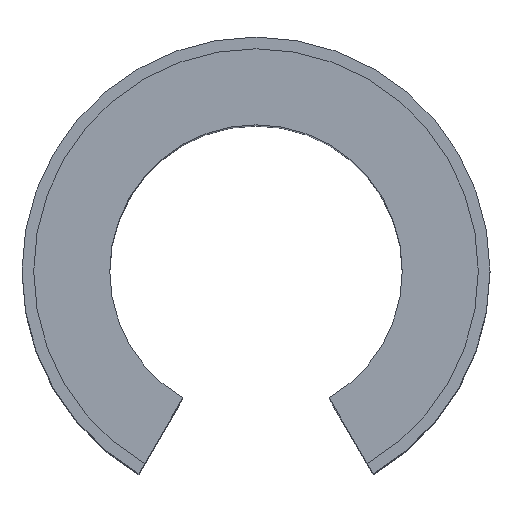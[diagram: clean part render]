
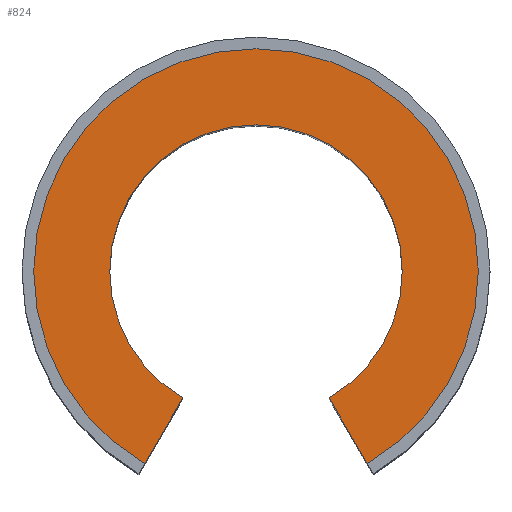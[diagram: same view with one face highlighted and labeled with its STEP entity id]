
A CAD part, top view. The second image highlights one B-rep face of the part: STEP entity #824.
In plain terms, the highlighted planar face has unit normal (0, 0, 1).
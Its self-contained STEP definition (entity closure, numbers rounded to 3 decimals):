
#51=CARTESIAN_POINT('',(12.5,0.,59.0));
#52=VERTEX_POINT('',#51);
#68=CARTESIAN_POINT('',(6.25,-10.825,59.0));
#69=VERTEX_POINT('',#68);
#76=CARTESIAN_POINT('',(0.0,0.0,59.0));
#77=DIRECTION('',(0.0,0.0,-1.0));
#78=DIRECTION('',(-1.0,0.0,0.0));
#79=AXIS2_PLACEMENT_3D('',#76,#77,#78);
#80=CIRCLE('',#79,12.5);
#81=EDGE_CURVE('',#52,#69,#80,.T.);
#91=CARTESIAN_POINT('',(-12.5,0.,59.0));
#92=VERTEX_POINT('',#91);
#101=CARTESIAN_POINT('',(-6.25,-10.825,59.0));
#102=VERTEX_POINT('',#101);
#103=CARTESIAN_POINT('',(0.0,0.0,59.0));
#104=DIRECTION('',(0.0,0.0,-1.0));
#105=DIRECTION('',(-1.0,0.0,0.0));
#106=AXIS2_PLACEMENT_3D('',#103,#104,#105);
#107=CIRCLE('',#106,12.5);
#108=EDGE_CURVE('',#102,#92,#107,.T.);
#469=CARTESIAN_POINT('',(-9.5,-16.454,59.0));
#470=VERTEX_POINT('',#469);
#539=CARTESIAN_POINT('',(-9.5,-16.454,59.0));
#540=DIRECTION('',(0.5,0.866,0.0));
#541=VECTOR('',#540,6.5);
#542=LINE('',#539,#541);
#543=EDGE_CURVE('',#470,#102,#542,.T.);
#553=CARTESIAN_POINT('',(9.5,-16.454,59.0));
#554=VERTEX_POINT('',#553);
#561=CARTESIAN_POINT('',(6.25,-10.825,59.0));
#562=DIRECTION('',(0.5,-0.866,0.0));
#563=VECTOR('',#562,6.5);
#564=LINE('',#561,#563);
#565=EDGE_CURVE('',#69,#554,#564,.T.);
#799=CARTESIAN_POINT('',(0.0,0.0,59.0));
#800=DIRECTION('',(0.0,0.0,-1.0));
#801=DIRECTION('',(-1.0,0.0,0.0));
#802=AXIS2_PLACEMENT_3D('',#799,#800,#801);
#803=PLANE('',#802);
#804=ORIENTED_EDGE('',*,*,#565,.T.);
#805=CARTESIAN_POINT('',(0.0,0.0,59.0));
#806=DIRECTION('',(0.0,0.0,-1.0));
#807=DIRECTION('',(1.0,0.0,0.0));
#808=AXIS2_PLACEMENT_3D('',#805,#806,#807);
#809=CIRCLE('',#808,19.0);
#810=EDGE_CURVE('',#470,#554,#809,.T.);
#811=ORIENTED_EDGE('',*,*,#810,.F.);
#812=ORIENTED_EDGE('',*,*,#543,.T.);
#813=ORIENTED_EDGE('',*,*,#108,.T.);
#814=CARTESIAN_POINT('',(0.0,0.0,59.0));
#815=DIRECTION('',(0.0,0.0,-1.0));
#816=DIRECTION('',(-1.0,0.0,0.0));
#817=AXIS2_PLACEMENT_3D('',#814,#815,#816);
#818=CIRCLE('',#817,12.5);
#819=EDGE_CURVE('',#92,#52,#818,.T.);
#820=ORIENTED_EDGE('',*,*,#819,.T.);
#821=ORIENTED_EDGE('',*,*,#81,.T.);
#822=EDGE_LOOP('',(#804,#811,#812,#813,#820,#821));
#823=FACE_OUTER_BOUND('',#822,.T.);
#824=ADVANCED_FACE('',(#823),#803,.F.);
